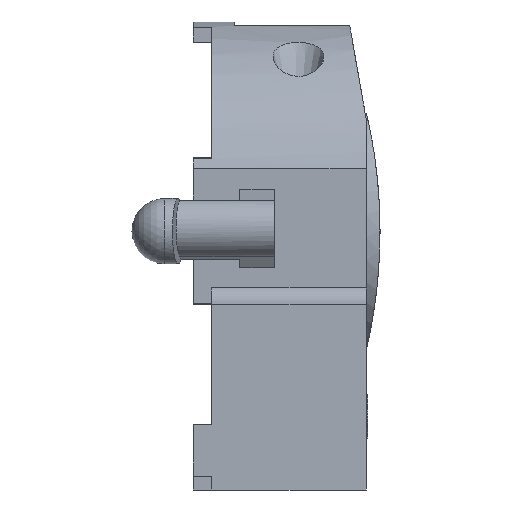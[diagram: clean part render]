
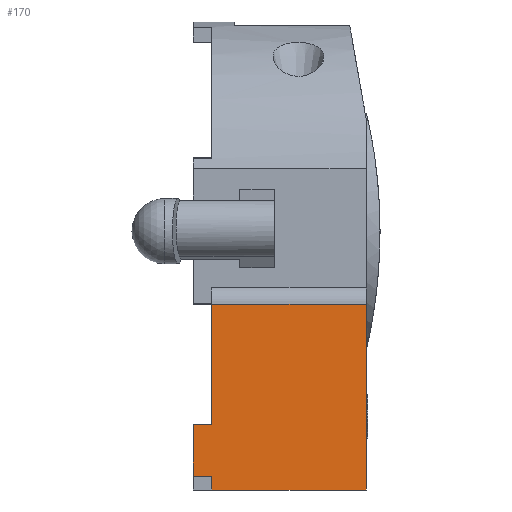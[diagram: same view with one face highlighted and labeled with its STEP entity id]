
A CAD part, left-side view. The second image highlights one B-rep face of the part: STEP entity #170.
In plain terms, the highlighted planar face has unit normal (-1, 0, 0.018).
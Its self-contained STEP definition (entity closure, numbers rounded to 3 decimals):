
#170 = ADVANCED_FACE( '', ( #539 ), #540, .T. );
#539 = FACE_OUTER_BOUND( '', #1092, .T. );
#540 = PLANE( '', #1093 );
#1092 = EDGE_LOOP( '', ( #2214, #2215, #2216, #2217, #2218, #2219, #2220, #2221 ) );
#1093 = AXIS2_PLACEMENT_3D( '', #2222, #2223, #2224 );
#2214 = ORIENTED_EDGE( '', *, *, #3874, .T. );
#2215 = ORIENTED_EDGE( '', *, *, #3875, .T. );
#2216 = ORIENTED_EDGE( '', *, *, #3876, .F. );
#2217 = ORIENTED_EDGE( '', *, *, #3877, .F. );
#2218 = ORIENTED_EDGE( '', *, *, #3878, .T. );
#2219 = ORIENTED_EDGE( '', *, *, #3879, .T. );
#2220 = ORIENTED_EDGE( '', *, *, #3880, .F. );
#2221 = ORIENTED_EDGE( '', *, *, #3824, .F. );
#2222 = CARTESIAN_POINT( '', ( -12.187, 8.95, -4.24 ) );
#2223 = DIRECTION( '', ( -1., 0., 0.017 ) );
#2224 = DIRECTION( '', ( 0.017, 0., 1. ) );
#3824 = EDGE_CURVE( '', #4662, #4658, #4664, .T. );
#3874 = EDGE_CURVE( '', #4662, #4749, #4750, .T. );
#3875 = EDGE_CURVE( '', #4749, #4751, #4752, .T. );
#3876 = EDGE_CURVE( '', #4753, #4751, #4754, .T. );
#3877 = EDGE_CURVE( '', #4755, #4753, #4756, .T. );
#3878 = EDGE_CURVE( '', #4755, #4757, #4758, .T. );
#3879 = EDGE_CURVE( '', #4757, #4759, #4760, .T. );
#3880 = EDGE_CURVE( '', #4658, #4759, #4761, .T. );
#4658 = VERTEX_POINT( '', #6215 );
#4662 = VERTEX_POINT( '', #6220 );
#4664 = LINE( '', #6222, #6223 );
#4749 = VERTEX_POINT( '', #6346 );
#4750 = LINE( '', #6347, #6348 );
#4751 = VERTEX_POINT( '', #6349 );
#4752 = LINE( '', #6350, #6351 );
#4753 = VERTEX_POINT( '', #6352 );
#4754 = LINE( '', #6353, #6354 );
#4755 = VERTEX_POINT( '', #6355 );
#4756 = LINE( '', #6356, #6357 );
#4757 = VERTEX_POINT( '', #6358 );
#4758 = LINE( '', #6359, #6360 );
#4759 = VERTEX_POINT( '', #6361 );
#4760 = LINE( '', #6362, #6363 );
#4761 = LINE( '', #6364, #6365 );
#6215 = CARTESIAN_POINT( '', ( -12.187, 0., -4.24 ) );
#6220 = CARTESIAN_POINT( '', ( -12.187, 8.95, -4.24 ) );
#6222 = CARTESIAN_POINT( '', ( -12.187, 8.95, -4.24 ) );
#6223 = VECTOR( '', #7664, 1000. );
#6346 = CARTESIAN_POINT( '', ( -12.309, 8.95, -11.2 ) );
#6347 = CARTESIAN_POINT( '', ( -12.187, 8.95, -4.24 ) );
#6348 = VECTOR( '', #7736, 1000. );
#6349 = CARTESIAN_POINT( '', ( -12.309, 10.025, -11.2 ) );
#6350 = CARTESIAN_POINT( '', ( -12.309, 8.65, -11.2 ) );
#6351 = VECTOR( '', #7737, 1000. );
#6352 = CARTESIAN_POINT( '', ( -12.361, 10.025, -14.2 ) );
#6353 = CARTESIAN_POINT( '', ( -12.309, 10.025, -11.2 ) );
#6354 = VECTOR( '', #7738, 1000. );
#6355 = CARTESIAN_POINT( '', ( -12.361, 8.95, -14.2 ) );
#6356 = CARTESIAN_POINT( '', ( -12.361, 8.65, -14.2 ) );
#6357 = VECTOR( '', #7739, 1000. );
#6358 = CARTESIAN_POINT( '', ( -12.375, 8.95, -15. ) );
#6359 = CARTESIAN_POINT( '', ( -12.187, 8.95, -4.24 ) );
#6360 = VECTOR( '', #7740, 1000. );
#6361 = CARTESIAN_POINT( '', ( -12.375, 0., -15. ) );
#6362 = CARTESIAN_POINT( '', ( -12.375, 8.95, -15. ) );
#6363 = VECTOR( '', #7741, 1000. );
#6364 = CARTESIAN_POINT( '', ( -12.187, 0., -4.24 ) );
#6365 = VECTOR( '', #7742, 1000. );
#7664 = DIRECTION( '', ( 0., -1., 0. ) );
#7736 = DIRECTION( '', ( -0.017, 0., -1. ) );
#7737 = DIRECTION( '', ( 0., 1., 0. ) );
#7738 = DIRECTION( '', ( 0.017, 0., 1. ) );
#7739 = DIRECTION( '', ( 0., 1., 0. ) );
#7740 = DIRECTION( '', ( -0.017, 0., -1. ) );
#7741 = DIRECTION( '', ( 0., -1., 0. ) );
#7742 = DIRECTION( '', ( -0.017, 0., -1. ) );
